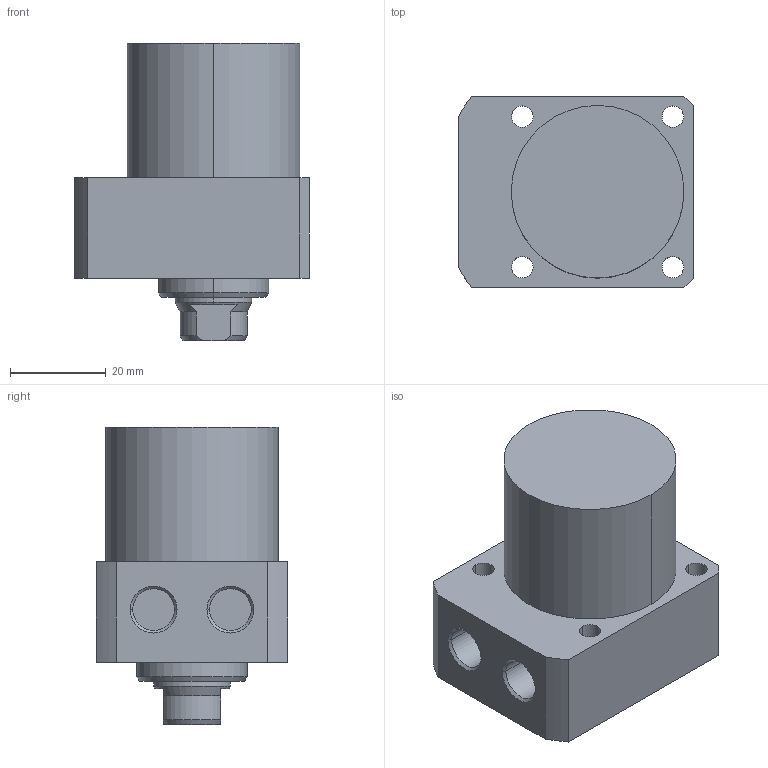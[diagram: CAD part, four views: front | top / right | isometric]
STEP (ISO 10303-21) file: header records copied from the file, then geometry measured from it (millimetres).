
FILE_DESCRIPTION((' '),'2;1');
FILE_NAME( 'TLLR-036CA-020.STEP.stp', '2025-10-24T16:35:43', (' '), ('--- Datakit www.datakit.com---'), ' Datakit CrossCadWare V2024.1 Dec 21 2023', 'Mastercam 2025', ' ');
FILE_SCHEMA(('AUTOMOTIVE_DESIGN { 1 0 10303 214 1 1 1 1 }'));
Length unit declared in the file: millimetre
Products named in the file (1): TLLR-036CA-020
Bounding box: 49 x 40 x 62 mm (x, y, z)
Volume: 69204.2 mm3; surface area: 13246.5 mm2
Topology: 1 solids, 1 shells, 61 faces, 172 edges, 119 vertices
Faces by surface type: cylinder 28, plane 19, cone 14
Entity records: 2092 total; most frequent: DIRECTION 384, CARTESIAN_POINT 383, ORIENTED_EDGE 340, EDGE_CURVE 170, AXIS2_PLACEMENT_3D 160, VERTEX_POINT 119, CIRCLE 98, EDGE_LOOP 77
